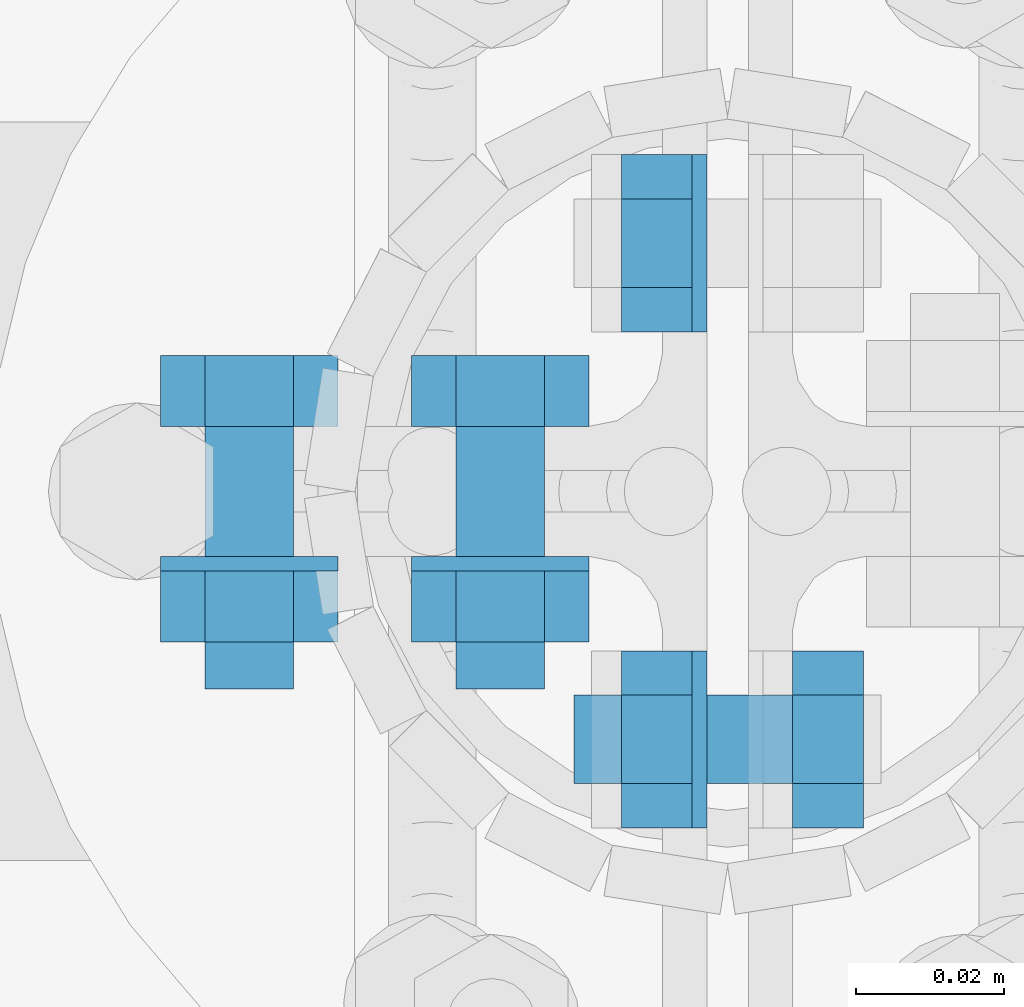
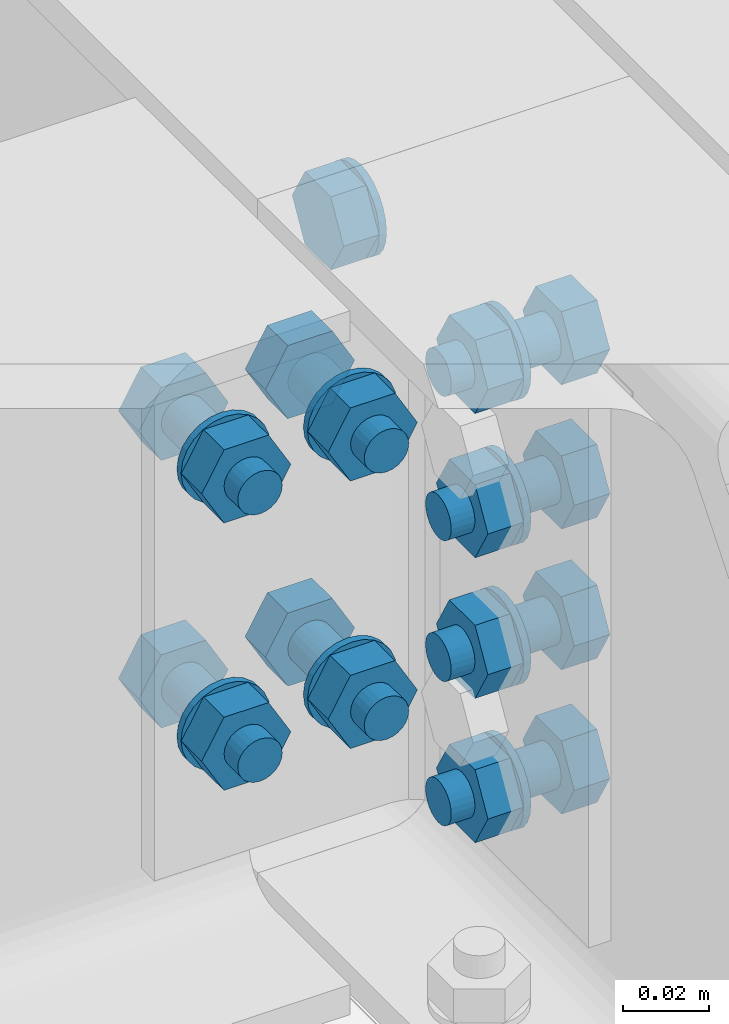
# One storey, part 56 of 84: 39 mechanical fasteners.
"""IFC4 building model written with IfcOpenShell, lengths in metres."""

from ifc_helpers import new_model, si_unit, frame, origin_with_axes, place, context, project, spatial, polyline, outline, extrude, type_object, element, save


model = new_model("IFC4")

# Units and contexts
model_context = context("Model", 3, precision=1e-05, world=origin_with_axes())
ifc_project = project(units=[si_unit("LENGTHUNIT", "METRE"), si_unit("AREAUNIT", "SQUARE_METRE"), si_unit("VOLUMEUNIT", "CUBIC_METRE"), si_unit("MASSUNIT", "GRAM", prefix="KILO"), si_unit("TIMEUNIT", "SECOND"), si_unit("PLANEANGLEUNIT", "RADIAN"), si_unit("SOLIDANGLEUNIT", "STERADIAN"), si_unit("THERMODYNAMICTEMPERATUREUNIT", "DEGREE_CELSIUS")], contexts=[model_context])

# Site, building, storey
placement_1 = place(None, origin_with_axes())
site = spatial("IfcSite", under=ifc_project, at=placement_1, Name="Italia", CompositionType="ELEMENT")
building = spatial("IfcBuilding", under=site, at=placement_1, Name="Tettoia", CompositionType="ELEMENT")
storey_placement = place(None, frame((0.0, 0.0, 4.199999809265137), z_axis=(0.0, 0.0, 1.0), x_axis=(1.0, 0.0, 0.0)))
storey = spatial("IfcBuildingStorey", under=building, at=storey_placement, Name="Storey 1", CompositionType="ELEMENT", Elevation=4.199999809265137)

# Mechanical fasteners
mechanical_fastener_type_1 = type_object("IfcMechanicalFastenerType", Name="Collegamento 0112_-016", PredefinedType="BOLT")
placement_2 = place(placement_1, origin_with_axes())
mechanical_fastener_1_placement = place(placement_2, origin_with_axes())
element("IfcMechanicalFastener", 1, at=mechanical_fastener_1_placement, inside=storey, type_object=mechanical_fastener_type_1, Name="Collegamento 0112_-016", NominalDiameter=0.0119997, context=model_context, shape_type="SweptSolid", body=[
    extrude(outline(polyline([(0.0, 0.0), (-0.0120001, 0.0), (-0.0180006, 0.0103922), (-0.0120001, 0.0207849), (0.0, 0.0207849), (0.00599957, 0.0103922), (0.0, 0.0)])), frame((4.0556, 13.9896, 4.35061), z_axis=(1.0, 0.0, 0.0), x_axis=(0.0, 1.0, 0.0)), (0.0, 0.0, 1.0), 0.00960016),
])
mechanical_fastener_type_2 = type_object("IfcMechanicalFastenerType", Name="Collegamento 0112_-016", PredefinedType="BOLT")
mechanical_fastener_2_placement = place(placement_2, origin_with_axes())
element("IfcMechanicalFastener", 2, at=mechanical_fastener_2_placement, inside=storey, type_object=mechanical_fastener_type_2, Name="Collegamento 0112_-016", NominalDiameter=0.024, context=model_context, shape_type="SweptSolid", body=[
    extrude(outline(polyline([(0.0, 0.0), (-0.000409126, -0.00310564), (-0.00160789, -0.00600004), (-0.00351524, -0.00848532), (-0.00600052, -0.0103922), (-0.00889397, -0.011591), (-0.0120001, -0.0120001), (-0.0151062, -0.011591), (-0.0179996, -0.0103922), (-0.0204849, -0.00848532), (-0.0223923, -0.00600004), (-0.023591, -0.00310564), (-0.0240002, 0.0), (-0.023591, 0.00310564), (-0.0223923, 0.00600004), (-0.0204849, 0.00848532), (-0.0179996, 0.0103922), (-0.0151062, 0.011591), (-0.0120001, 0.0120001), (-0.00889397, 0.011591), (-0.00600052, 0.0103922), (-0.00351524, 0.00848532), (-0.00160789, 0.00600004), (-0.000409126, 0.00310564), (0.0, 0.0)])), frame((4.0652, 13.9956, 4.361), z_axis=(1.0, 0.0, 0.0), x_axis=(0.0, 1.0, 0.0)), (0.0, 0.0, 1.0), 0.00199986),
])
mechanical_fastener_type_3 = type_object("IfcMechanicalFastenerType", Name="Collegamento 0112_-016", PredefinedType="BOLT")
mechanical_fastener_3_placement = place(placement_2, origin_with_axes())
element("IfcMechanicalFastener", 3, at=mechanical_fastener_3_placement, inside=storey, type_object=mechanical_fastener_type_3, Name="Collegamento 0112_-016", NominalDiameter=0.0119997, context=model_context, shape_type="SweptSolid", body=[
    extrude(outline(polyline([(0.0, 0.0), (-0.0120001, 0.0), (-0.0180006, 0.0103927), (-0.0120001, 0.0207849), (0.0, 0.0207849), (0.00599957, 0.0103927), (0.0, 0.0)])), frame((4.0884, 13.9104, 4.22861), z_axis=(-1.0, 0.0, 0.0), x_axis=(0.0, -1.0, 0.0)), (0.0, 0.0, 1.0), 0.00960016),
])
mechanical_fastener_type_4 = type_object("IfcMechanicalFastenerType", Name="Collegamento 0112_-016", PredefinedType="BOLT")
mechanical_fastener_4_placement = place(placement_2, origin_with_axes())
element("IfcMechanicalFastener", 4, at=mechanical_fastener_4_placement, inside=storey, type_object=mechanical_fastener_type_4, Name="Collegamento 0112_-016", NominalDiameter=0.012, context=model_context, shape_type="SweptSolid", body=[
    extrude(outline(polyline([(0.0, 0.0), (-0.000204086, -0.00155306), (-0.000802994, -0.00299978), (-0.00175667, -0.00424242), (-0.00299931, -0.00519609), (-0.00444698, -0.00579548), (-0.00599957, -0.00600004), (-0.00755215, -0.00579548), (-0.00899982, -0.00519609), (-0.0102425, -0.00424242), (-0.0111961, -0.00299978), (-0.011795, -0.00155306), (-0.0119991, 0.0), (-0.011795, 0.00155306), (-0.0111961, 0.00299978), (-0.0102425, 0.00424242), (-0.00899982, 0.00519609), (-0.00755215, 0.00579548), (-0.00599957, 0.00600004), (-0.00444698, 0.00579548), (-0.00299931, 0.00519609), (-0.00175667, 0.00424242), (-0.000802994, 0.00299978), (-0.000204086, 0.00155306), (0.0, 0.0)])), frame((4.0788, 13.9104, 4.239), z_axis=(-1.0, 0.0, 0.0), x_axis=(0.0, -1.0, 0.0)), (0.0, 0.0, 1.0), 0.0296001),
])
mechanical_fastener_type_5 = type_object("IfcMechanicalFastenerType", Name="Collegamento 0112_-016", PredefinedType="BOLT")
mechanical_fastener_5_placement = place(placement_2, origin_with_axes())
element("IfcMechanicalFastener", 5, at=mechanical_fastener_5_placement, inside=storey, type_object=mechanical_fastener_type_5, Name="Collegamento 0112_-016", NominalDiameter=0.0119997, context=model_context, shape_type="SweptSolid", body=[
    extrude(outline(polyline([(0.0, 0.0), (-0.0120001, 0.0), (-0.0180006, 0.0103927), (-0.0120001, 0.0207849), (0.0, 0.0207849), (0.00599957, 0.0103927), (0.0, 0.0)])), frame((4.0652, 13.9104, 4.22861), z_axis=(-1.0, 0.0, 0.0), x_axis=(0.0, -1.0, 0.0)), (0.0, 0.0, 1.0), 0.00960016),
])
mechanical_fastener_type_6 = type_object("IfcMechanicalFastenerType", Name="Collegamento 0112_-016", PredefinedType="BOLT")
mechanical_fastener_6_placement = place(placement_2, origin_with_axes())
element("IfcMechanicalFastener", 6, at=mechanical_fastener_6_placement, inside=storey, type_object=mechanical_fastener_type_6, Name="Collegamento 0112_-016", NominalDiameter=0.024, context=model_context, shape_type="SweptSolid", body=[
    extrude(outline(polyline([(0.0, 0.0), (-0.000409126, -0.00310564), (-0.00160789, -0.00600004), (-0.00351524, -0.00848532), (-0.00600052, -0.0103922), (-0.00889397, -0.011591), (-0.0120001, -0.0120001), (-0.0151062, -0.011591), (-0.0179996, -0.0103922), (-0.0204849, -0.00848532), (-0.0223923, -0.00600004), (-0.023591, -0.00310564), (-0.0240002, 0.0), (-0.023591, 0.00310564), (-0.0223923, 0.00600004), (-0.0204849, 0.00848532), (-0.0179996, 0.0103922), (-0.0151062, 0.011591), (-0.0120001, 0.0120001), (-0.00889397, 0.011591), (-0.00600052, 0.0103922), (-0.00351524, 0.00848532), (-0.00160789, 0.00600004), (-0.000409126, 0.00310564), (0.0, 0.0)])), frame((4.0672, 13.9044, 4.239), z_axis=(-1.0, 0.0, 0.0), x_axis=(0.0, -1.0, 0.0)), (0.0, 0.0, 1.0), 0.00199986),
])
mechanical_fastener_type_7 = type_object("IfcMechanicalFastenerType", Name="Collegamento 0112_-016", PredefinedType="BOLT")
mechanical_fastener_7_placement = place(placement_2, origin_with_axes())
element("IfcMechanicalFastener", 7, at=mechanical_fastener_7_placement, inside=storey, type_object=mechanical_fastener_type_7, Name="Collegamento 0112_-016", NominalDiameter=0.0119997, context=model_context, shape_type="SweptSolid", body=[
    extrude(outline(polyline([(0.0, 0.0), (-0.0120001, 0.0), (-0.0180006, 0.0103922), (-0.0120001, 0.0207844), (0.0, 0.0207844), (0.00599957, 0.0103922), (0.0, 0.0)])), frame((4.0884, 13.9104, 4.26961), z_axis=(-1.0, 0.0, 0.0), x_axis=(0.0, -1.0, 0.0)), (0.0, 0.0, 1.0), 0.00960016),
])
mechanical_fastener_type_8 = type_object("IfcMechanicalFastenerType", Name="Collegamento 0112_-016", PredefinedType="BOLT")
mechanical_fastener_8_placement = place(placement_2, origin_with_axes())
element("IfcMechanicalFastener", 8, at=mechanical_fastener_8_placement, inside=storey, type_object=mechanical_fastener_type_8, Name="Collegamento 0112_-016", NominalDiameter=0.012, context=model_context, shape_type="SweptSolid", body=[
    extrude(outline(polyline([(0.0, 0.0), (-0.000204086, -0.00155306), (-0.000802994, -0.00299978), (-0.00175667, -0.00424242), (-0.00299931, -0.00519609), (-0.00444698, -0.00579548), (-0.00599957, -0.00600004), (-0.00755215, -0.00579548), (-0.00899982, -0.00519609), (-0.0102425, -0.00424242), (-0.0111961, -0.00299978), (-0.011795, -0.00155306), (-0.0119991, 0.0), (-0.011795, 0.00155306), (-0.0111961, 0.00299978), (-0.0102425, 0.00424242), (-0.00899982, 0.00519609), (-0.00755215, 0.00579548), (-0.00599957, 0.00600004), (-0.00444698, 0.00579548), (-0.00299931, 0.00519609), (-0.00175667, 0.00424242), (-0.000802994, 0.00299978), (-0.000204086, 0.00155306), (0.0, 0.0)])), frame((4.0788, 13.9104, 4.28), z_axis=(-1.0, 0.0, 0.0), x_axis=(0.0, -1.0, 0.0)), (0.0, 0.0, 1.0), 0.0296001),
])
mechanical_fastener_type_9 = type_object("IfcMechanicalFastenerType", Name="Collegamento 0112_-016", PredefinedType="BOLT")
mechanical_fastener_9_placement = place(placement_2, origin_with_axes())
element("IfcMechanicalFastener", 9, at=mechanical_fastener_9_placement, inside=storey, type_object=mechanical_fastener_type_9, Name="Collegamento 0112_-016", NominalDiameter=0.0119997, context=model_context, shape_type="SweptSolid", body=[
    extrude(outline(polyline([(0.0, 0.0), (-0.0120001, 0.0), (-0.0180006, 0.0103922), (-0.0120001, 0.0207844), (0.0, 0.0207844), (0.00599957, 0.0103922), (0.0, 0.0)])), frame((4.0652, 13.9104, 4.26961), z_axis=(-1.0, 0.0, 0.0), x_axis=(0.0, -1.0, 0.0)), (0.0, 0.0, 1.0), 0.00960016),
])
mechanical_fastener_type_10 = type_object("IfcMechanicalFastenerType", Name="Collegamento 0112_-016", PredefinedType="BOLT")
mechanical_fastener_10_placement = place(placement_2, origin_with_axes())
element("IfcMechanicalFastener", 10, at=mechanical_fastener_10_placement, inside=storey, type_object=mechanical_fastener_type_10, Name="Collegamento 0112_-016", NominalDiameter=0.024, context=model_context, shape_type="SweptSolid", body=[
    extrude(outline(polyline([(0.0, 0.0), (-0.000409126, -0.00310564), (-0.00160789, -0.00600004), (-0.00351524, -0.00848532), (-0.00600052, -0.0103922), (-0.00889397, -0.011591), (-0.0120001, -0.0120001), (-0.0151062, -0.011591), (-0.0179996, -0.0103922), (-0.0204849, -0.00848532), (-0.0223923, -0.00600004), (-0.023591, -0.00310564), (-0.0240002, 0.0), (-0.023591, 0.00310564), (-0.0223923, 0.00600004), (-0.0204849, 0.00848532), (-0.0179996, 0.0103922), (-0.0151062, 0.011591), (-0.0120001, 0.0120001), (-0.00889397, 0.011591), (-0.00600052, 0.0103922), (-0.00351524, 0.00848532), (-0.00160789, 0.00600004), (-0.000409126, 0.00310564), (0.0, 0.0)])), frame((4.0672, 13.9044, 4.28), z_axis=(-1.0, 0.0, 0.0), x_axis=(0.0, -1.0, 0.0)), (0.0, 0.0, 1.0), 0.00199986),
])
mechanical_fastener_type_11 = type_object("IfcMechanicalFastenerType", Name="Collegamento 0112_-016", PredefinedType="BOLT")
mechanical_fastener_11_placement = place(placement_2, origin_with_axes())
element("IfcMechanicalFastener", 11, at=mechanical_fastener_11_placement, inside=storey, type_object=mechanical_fastener_type_11, Name="Collegamento 0112_-016", NominalDiameter=0.0119997, context=model_context, shape_type="SweptSolid", body=[
    extrude(outline(polyline([(0.0, 0.0), (-0.0120001, 0.0), (-0.0180006, 0.0103922), (-0.0120001, 0.0207844), (0.0, 0.0207844), (0.00599957, 0.0103922), (0.0, 0.0)])), frame((4.0884, 13.9104, 4.30961), z_axis=(-1.0, 0.0, 0.0), x_axis=(0.0, -1.0, 0.0)), (0.0, 0.0, 1.0), 0.00960016),
])
mechanical_fastener_type_12 = type_object("IfcMechanicalFastenerType", Name="Collegamento 0112_-016", PredefinedType="BOLT")
mechanical_fastener_12_placement = place(placement_2, origin_with_axes())
element("IfcMechanicalFastener", 12, at=mechanical_fastener_12_placement, inside=storey, type_object=mechanical_fastener_type_12, Name="Collegamento 0112_-016", NominalDiameter=0.012, context=model_context, shape_type="SweptSolid", body=[
    extrude(outline(polyline([(0.0, 0.0), (-0.000204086, -0.00155306), (-0.000802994, -0.00299978), (-0.00175667, -0.00424242), (-0.00299931, -0.00519609), (-0.00444698, -0.00579548), (-0.00599957, -0.00600004), (-0.00755215, -0.00579548), (-0.00899982, -0.00519609), (-0.0102425, -0.00424242), (-0.0111961, -0.00299978), (-0.011795, -0.00155306), (-0.0119991, 0.0), (-0.011795, 0.00155306), (-0.0111961, 0.00299978), (-0.0102425, 0.00424242), (-0.00899982, 0.00519609), (-0.00755215, 0.00579548), (-0.00599957, 0.00600004), (-0.00444698, 0.00579548), (-0.00299931, 0.00519609), (-0.00175667, 0.00424242), (-0.000802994, 0.00299978), (-0.000204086, 0.00155306), (0.0, 0.0)])), frame((4.0788, 13.9104, 4.32), z_axis=(-1.0, 0.0, 0.0), x_axis=(0.0, -1.0, 0.0)), (0.0, 0.0, 1.0), 0.0296001),
])
mechanical_fastener_type_13 = type_object("IfcMechanicalFastenerType", Name="Collegamento 0112_-016", PredefinedType="BOLT")
mechanical_fastener_13_placement = place(placement_2, origin_with_axes())
element("IfcMechanicalFastener", 13, at=mechanical_fastener_13_placement, inside=storey, type_object=mechanical_fastener_type_13, Name="Collegamento 0112_-016", NominalDiameter=0.0119997, context=model_context, shape_type="SweptSolid", body=[
    extrude(outline(polyline([(0.0, 0.0), (-0.0120001, 0.0), (-0.0180006, 0.0103922), (-0.0120001, 0.0207844), (0.0, 0.0207844), (0.00599957, 0.0103922), (0.0, 0.0)])), frame((4.0652, 13.9104, 4.30961), z_axis=(-1.0, 0.0, 0.0), x_axis=(0.0, -1.0, 0.0)), (0.0, 0.0, 1.0), 0.00960016),
])
mechanical_fastener_type_14 = type_object("IfcMechanicalFastenerType", Name="Collegamento 0112_-016", PredefinedType="BOLT")
mechanical_fastener_14_placement = place(placement_2, origin_with_axes())
element("IfcMechanicalFastener", 14, at=mechanical_fastener_14_placement, inside=storey, type_object=mechanical_fastener_type_14, Name="Collegamento 0112_-016", NominalDiameter=0.024, context=model_context, shape_type="SweptSolid", body=[
    extrude(outline(polyline([(0.0, 0.0), (-0.000409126, -0.00310564), (-0.00160789, -0.00600004), (-0.00351524, -0.00848532), (-0.00600052, -0.0103922), (-0.00889397, -0.011591), (-0.0120001, -0.0120001), (-0.0151062, -0.011591), (-0.0179996, -0.0103922), (-0.0204849, -0.00848532), (-0.0223923, -0.00600004), (-0.023591, -0.00310564), (-0.0240002, 0.0), (-0.023591, 0.00310564), (-0.0223923, 0.00600004), (-0.0204849, 0.00848532), (-0.0179996, 0.0103922), (-0.0151062, 0.011591), (-0.0120001, 0.0120001), (-0.00889397, 0.011591), (-0.00600052, 0.0103922), (-0.00351524, 0.00848532), (-0.00160789, 0.00600004), (-0.000409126, 0.00310564), (0.0, 0.0)])), frame((4.0672, 13.9044, 4.32), z_axis=(-1.0, 0.0, 0.0), x_axis=(0.0, -1.0, 0.0)), (0.0, 0.0, 1.0), 0.00199986),
])
mechanical_fastener_type_15 = type_object("IfcMechanicalFastenerType", Name="Collegamento 0112_-016", PredefinedType="BOLT")
mechanical_fastener_15_placement = place(placement_2, origin_with_axes())
element("IfcMechanicalFastener", 15, at=mechanical_fastener_15_placement, inside=storey, type_object=mechanical_fastener_type_15, Name="Collegamento 0112_-016", NominalDiameter=0.0119997, context=model_context, shape_type="SweptSolid", body=[
    extrude(outline(polyline([(0.0, 0.0), (-0.0120001, 0.0), (-0.0180006, 0.0103922), (-0.0120001, 0.0207849), (0.0, 0.0207849), (0.00599957, 0.0103922), (0.0, 0.0)])), frame((4.0884, 13.9104, 4.35061), z_axis=(-1.0, 0.0, 0.0), x_axis=(0.0, -1.0, 0.0)), (0.0, 0.0, 1.0), 0.00960016),
])
mechanical_fastener_type_16 = type_object("IfcMechanicalFastenerType", Name="Collegamento 0112_-016", PredefinedType="BOLT")
mechanical_fastener_16_placement = place(placement_2, origin_with_axes())
element("IfcMechanicalFastener", 16, at=mechanical_fastener_16_placement, inside=storey, type_object=mechanical_fastener_type_16, Name="Collegamento 0112_-016", NominalDiameter=0.012, context=model_context, shape_type="SweptSolid", body=[
    extrude(outline(polyline([(0.0, 0.0), (-0.000204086, -0.00155306), (-0.000802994, -0.00299978), (-0.00175667, -0.00424242), (-0.00299931, -0.00519609), (-0.00444698, -0.00579548), (-0.00599957, -0.00600004), (-0.00755215, -0.00579548), (-0.00899982, -0.00519609), (-0.0102425, -0.00424242), (-0.0111961, -0.00299978), (-0.011795, -0.00155306), (-0.0119991, 0.0), (-0.011795, 0.00155306), (-0.0111961, 0.00299978), (-0.0102425, 0.00424242), (-0.00899982, 0.00519609), (-0.00755215, 0.00579548), (-0.00599957, 0.00600004), (-0.00444698, 0.00579548), (-0.00299931, 0.00519609), (-0.00175667, 0.00424242), (-0.000802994, 0.00299978), (-0.000204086, 0.00155306), (0.0, 0.0)])), frame((4.0788, 13.9104, 4.361), z_axis=(-1.0, 0.0, 0.0), x_axis=(0.0, -1.0, 0.0)), (0.0, 0.0, 1.0), 0.0296001),
])
mechanical_fastener_type_17 = type_object("IfcMechanicalFastenerType", Name="Collegamento 0112_-016", PredefinedType="BOLT")
mechanical_fastener_17_placement = place(placement_2, origin_with_axes())
element("IfcMechanicalFastener", 17, at=mechanical_fastener_17_placement, inside=storey, type_object=mechanical_fastener_type_17, Name="Collegamento 0112_-016", NominalDiameter=0.0119997, context=model_context, shape_type="SweptSolid", body=[
    extrude(outline(polyline([(0.0, 0.0), (-0.0120001, 0.0), (-0.0180006, 0.0103922), (-0.0120001, 0.0207849), (0.0, 0.0207849), (0.00599957, 0.0103922), (0.0, 0.0)])), frame((4.0652, 13.9104, 4.35061), z_axis=(-1.0, 0.0, 0.0), x_axis=(0.0, -1.0, 0.0)), (0.0, 0.0, 1.0), 0.00960016),
])
mechanical_fastener_type_18 = type_object("IfcMechanicalFastenerType", Name="Collegamento 0112_-016", PredefinedType="BOLT")
mechanical_fastener_18_placement = place(placement_2, origin_with_axes())
element("IfcMechanicalFastener", 18, at=mechanical_fastener_18_placement, inside=storey, type_object=mechanical_fastener_type_18, Name="Collegamento 0112_-016", NominalDiameter=0.024, context=model_context, shape_type="SweptSolid", body=[
    extrude(outline(polyline([(0.0, 0.0), (-0.000409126, -0.00310564), (-0.00160789, -0.00600004), (-0.00351524, -0.00848532), (-0.00600052, -0.0103922), (-0.00889397, -0.011591), (-0.0120001, -0.0120001), (-0.0151062, -0.011591), (-0.0179996, -0.0103922), (-0.0204849, -0.00848532), (-0.0223923, -0.00600004), (-0.023591, -0.00310564), (-0.0240002, 0.0), (-0.023591, 0.00310564), (-0.0223923, 0.00600004), (-0.0204849, 0.00848532), (-0.0179996, 0.0103922), (-0.0151062, 0.011591), (-0.0120001, 0.0120001), (-0.00889397, 0.011591), (-0.00600052, 0.0103922), (-0.00351524, 0.00848532), (-0.00160789, 0.00600004), (-0.000409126, 0.00310564), (0.0, 0.0)])), frame((4.0672, 13.9044, 4.361), z_axis=(-1.0, 0.0, 0.0), x_axis=(0.0, -1.0, 0.0)), (0.0, 0.0, 1.0), 0.00199986),
])
mechanical_fastener_type_19 = type_object("IfcMechanicalFastenerType", Name="Collegamento 0112_0111", PredefinedType="BOLT")
mechanical_fastener_19_placement = place(placement_2, origin_with_axes())
element("IfcMechanicalFastener", 19, at=mechanical_fastener_19_placement, inside=storey, type_object=mechanical_fastener_type_19, Name="Collegamento 0112_0111", NominalDiameter=0.0119999, context=model_context, shape_type="SweptSolid", body=[
    extrude(outline(polyline([(0.0, 0.0), (-0.0120001, 0.0), (-0.0180001, 0.0103922), (-0.0120001, 0.0207844), (0.0, 0.0207844), (0.00600004, 0.0103922), (0.0, 0.0)])), frame((4.0332, 13.9588, 4.25161), z_axis=(0.0, 1.0, 0.0), x_axis=(-1.0, 0.0, 0.0)), (0.0, 0.0, 1.0), 0.00960064),
])
mechanical_fastener_type_20 = type_object("IfcMechanicalFastenerType", Name="Collegamento 0112_0111", PredefinedType="BOLT")
mechanical_fastener_20_placement = place(placement_2, origin_with_axes())
element("IfcMechanicalFastener", 20, at=mechanical_fastener_20_placement, inside=storey, type_object=mechanical_fastener_type_20, Name="Collegamento 0112_0111", NominalDiameter=0.012, context=model_context, shape_type="SweptSolid", body=[
    extrude(outline(polyline([(0.0, 0.0), (-0.000204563, -0.00155306), (-0.000803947, -0.00299978), (-0.00175762, -0.00424242), (-0.00300026, -0.00519609), (-0.00444698, -0.00579548), (-0.00600004, -0.00600004), (-0.0075531, -0.00579548), (-0.00899982, -0.00519609), (-0.0102425, -0.00424242), (-0.0111961, -0.00299978), (-0.0117955, -0.00155306), (-0.0120001, 0.0), (-0.0117955, 0.00155306), (-0.0111961, 0.00299978), (-0.0102425, 0.00424242), (-0.00899982, 0.00519609), (-0.0075531, 0.00579548), (-0.00600004, 0.00600004), (-0.00444698, 0.00579548), (-0.00300026, 0.00519609), (-0.00175762, 0.00424242), (-0.000803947, 0.00299978), (-0.000204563, 0.00155306), (0.0, 0.0)])), frame((4.0332, 13.9232, 4.262), z_axis=(0.0, 1.0, 0.0), x_axis=(-1.0, 0.0, 0.0)), (0.0, 0.0, 1.0), 0.0355997),
])
mechanical_fastener_type_21 = type_object("IfcMechanicalFastenerType", Name="Collegamento 0112_0111", PredefinedType="BOLT")
mechanical_fastener_21_placement = place(placement_2, origin_with_axes())
element("IfcMechanicalFastener", 21, at=mechanical_fastener_21_placement, inside=storey, type_object=mechanical_fastener_type_21, Name="Collegamento 0112_0111", NominalDiameter=0.0119999, context=model_context, shape_type="SweptSolid", body=[
    extrude(outline(polyline([(0.0, 0.0), (-0.0120001, 0.0), (-0.0180001, 0.0103922), (-0.0120001, 0.0207844), (0.0, 0.0207844), (0.00600004, 0.0103922), (0.0, 0.0)])), frame((4.0332, 13.9296, 4.25161), z_axis=(0.0, 1.0, 0.0), x_axis=(-1.0, 0.0, 0.0)), (0.0, 0.0, 1.0), 0.00959969),
])
mechanical_fastener_type_22 = type_object("IfcMechanicalFastenerType", Name="Collegamento 0112_0111", PredefinedType="BOLT")
mechanical_fastener_22_placement = place(placement_2, origin_with_axes())
element("IfcMechanicalFastener", 22, at=mechanical_fastener_22_placement, inside=storey, type_object=mechanical_fastener_type_22, Name="Collegamento 0112_0111", NominalDiameter=0.024, context=model_context, shape_type="SweptSolid", body=[
    extrude(outline(polyline([(0.0, 0.0), (-0.000409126, -0.00310564), (-0.00160789, -0.00600004), (-0.00351477, -0.00848532), (-0.00600004, -0.0103922), (-0.00889444, -0.011591), (-0.0120001, -0.0120001), (-0.0151057, -0.011591), (-0.0180001, -0.0103922), (-0.0204854, -0.00848532), (-0.0223923, -0.00600004), (-0.023591, -0.00310564), (-0.0240002, 0.0), (-0.023591, 0.00310564), (-0.0223923, 0.00600004), (-0.0204854, 0.00848532), (-0.0180001, 0.0103922), (-0.0151057, 0.011591), (-0.0120001, 0.0120001), (-0.00889444, 0.011591), (-0.00600004, 0.0103922), (-0.00351477, 0.00848532), (-0.00160789, 0.00600004), (-0.000409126, 0.00310564), (0.0, 0.0)])), frame((4.0272, 13.9392, 4.262), z_axis=(0.0, 1.0, 0.0), x_axis=(-1.0, 0.0, 0.0)), (0.0, 0.0, 1.0), 0.00200081),
])
mechanical_fastener_type_23 = type_object("IfcMechanicalFastenerType", Name="Collegamento 0112_0111", PredefinedType="BOLT")
mechanical_fastener_23_placement = place(placement_2, origin_with_axes())
element("IfcMechanicalFastener", 23, at=mechanical_fastener_23_placement, inside=storey, type_object=mechanical_fastener_type_23, Name="Collegamento 0112_0111", NominalDiameter=0.0119999, context=model_context, shape_type="SweptSolid", body=[
    extrude(outline(polyline([(0.0, 0.0), (-0.0120001, 0.0), (-0.0180001, 0.0103922), (-0.0120001, 0.0207844), (0.0, 0.0207844), (0.00600004, 0.0103922), (0.0, 0.0)])), frame((4.0332, 13.9588, 4.32761), z_axis=(0.0, 1.0, 0.0), x_axis=(-1.0, 0.0, 0.0)), (0.0, 0.0, 1.0), 0.00960064),
])
mechanical_fastener_type_24 = type_object("IfcMechanicalFastenerType", Name="Collegamento 0112_0111", PredefinedType="BOLT")
mechanical_fastener_24_placement = place(placement_2, origin_with_axes())
element("IfcMechanicalFastener", 24, at=mechanical_fastener_24_placement, inside=storey, type_object=mechanical_fastener_type_24, Name="Collegamento 0112_0111", NominalDiameter=0.012, context=model_context, shape_type="SweptSolid", body=[
    extrude(outline(polyline([(0.0, 0.0), (-0.000204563, -0.00155306), (-0.000803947, -0.00299978), (-0.00175762, -0.00424242), (-0.00300026, -0.00519609), (-0.00444698, -0.00579548), (-0.00600004, -0.00600004), (-0.0075531, -0.00579548), (-0.00899982, -0.00519609), (-0.0102425, -0.00424242), (-0.0111961, -0.00299978), (-0.0117955, -0.00155306), (-0.0120001, 0.0), (-0.0117955, 0.00155306), (-0.0111961, 0.00299978), (-0.0102425, 0.00424242), (-0.00899982, 0.00519609), (-0.0075531, 0.00579548), (-0.00600004, 0.00600004), (-0.00444698, 0.00579548), (-0.00300026, 0.00519609), (-0.00175762, 0.00424242), (-0.000803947, 0.00299978), (-0.000204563, 0.00155306), (0.0, 0.0)])), frame((4.0332, 13.9232, 4.338), z_axis=(0.0, 1.0, 0.0), x_axis=(-1.0, 0.0, 0.0)), (0.0, 0.0, 1.0), 0.0355997),
])
mechanical_fastener_type_25 = type_object("IfcMechanicalFastenerType", Name="Collegamento 0112_0111", PredefinedType="BOLT")
mechanical_fastener_25_placement = place(placement_2, origin_with_axes())
element("IfcMechanicalFastener", 25, at=mechanical_fastener_25_placement, inside=storey, type_object=mechanical_fastener_type_25, Name="Collegamento 0112_0111", NominalDiameter=0.0119999, context=model_context, shape_type="SweptSolid", body=[
    extrude(outline(polyline([(0.0, 0.0), (-0.0120001, 0.0), (-0.0180001, 0.0103922), (-0.0120001, 0.0207844), (0.0, 0.0207844), (0.00600004, 0.0103922), (0.0, 0.0)])), frame((4.0332, 13.9296, 4.32761), z_axis=(0.0, 1.0, 0.0), x_axis=(-1.0, 0.0, 0.0)), (0.0, 0.0, 1.0), 0.00959969),
])
mechanical_fastener_type_26 = type_object("IfcMechanicalFastenerType", Name="Collegamento 0112_0111", PredefinedType="BOLT")
mechanical_fastener_26_placement = place(placement_2, origin_with_axes())
element("IfcMechanicalFastener", 26, at=mechanical_fastener_26_placement, inside=storey, type_object=mechanical_fastener_type_26, Name="Collegamento 0112_0111", NominalDiameter=0.024, context=model_context, shape_type="SweptSolid", body=[
    extrude(outline(polyline([(0.0, 0.0), (-0.000409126, -0.00310564), (-0.00160789, -0.00600004), (-0.00351477, -0.00848532), (-0.00600004, -0.0103922), (-0.00889444, -0.011591), (-0.0120001, -0.0120001), (-0.0151057, -0.011591), (-0.0180001, -0.0103922), (-0.0204854, -0.00848532), (-0.0223923, -0.00600004), (-0.023591, -0.00310564), (-0.0240002, 0.0), (-0.023591, 0.00310564), (-0.0223923, 0.00600004), (-0.0204854, 0.00848532), (-0.0180001, 0.0103922), (-0.0151057, 0.011591), (-0.0120001, 0.0120001), (-0.00889444, 0.011591), (-0.00600004, 0.0103922), (-0.00351477, 0.00848532), (-0.00160789, 0.00600004), (-0.000409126, 0.00310564), (0.0, 0.0)])), frame((4.0272, 13.9392, 4.338), z_axis=(0.0, 1.0, 0.0), x_axis=(-1.0, 0.0, 0.0)), (0.0, 0.0, 1.0), 0.00200081),
])
mechanical_fastener_type_27 = type_object("IfcMechanicalFastenerType", Name="Collegamento 0112_0111", PredefinedType="BOLT")
mechanical_fastener_27_placement = place(placement_2, origin_with_axes())
element("IfcMechanicalFastener", 27, at=mechanical_fastener_27_placement, inside=storey, type_object=mechanical_fastener_type_27, Name="Collegamento 0112_0111", NominalDiameter=0.0119998, context=model_context, shape_type="SweptSolid", body=[
    extrude(outline(polyline([(0.0, 0.0), (-0.0119998, 0.0), (-0.0179999, 0.0103922), (-0.0119998, 0.0207844), (0.0, 0.0207844), (0.0059998, 0.0103922), (0.0, 0.0)])), frame((3.9992, 13.9588, 4.25161), z_axis=(0.0, 1.0, 0.0), x_axis=(-1.0, 0.0, 0.0)), (0.0, 0.0, 1.0), 0.00960064),
])
mechanical_fastener_type_28 = type_object("IfcMechanicalFastenerType", Name="Collegamento 0112_0111", PredefinedType="BOLT")
mechanical_fastener_28_placement = place(placement_2, origin_with_axes())
element("IfcMechanicalFastener", 28, at=mechanical_fastener_28_placement, inside=storey, type_object=mechanical_fastener_type_28, Name="Collegamento 0112_0111", NominalDiameter=0.012, context=model_context, shape_type="SweptSolid", body=[
    extrude(outline(polyline([(0.0, 0.0), (-0.000204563, -0.00155306), (-0.000803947, -0.00299978), (-0.00175762, -0.00424242), (-0.00300026, -0.00519609), (-0.00444698, -0.00579548), (-0.00600004, -0.00600004), (-0.0075531, -0.00579548), (-0.00899982, -0.00519609), (-0.0102425, -0.00424242), (-0.0111961, -0.00299978), (-0.0117955, -0.00155306), (-0.0120001, 0.0), (-0.0117955, 0.00155306), (-0.0111961, 0.00299978), (-0.0102425, 0.00424242), (-0.00899982, 0.00519609), (-0.0075531, 0.00579548), (-0.00600004, 0.00600004), (-0.00444698, 0.00579548), (-0.00300026, 0.00519609), (-0.00175762, 0.00424242), (-0.000803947, 0.00299978), (-0.000204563, 0.00155306), (0.0, 0.0)])), frame((3.9992, 13.9232, 4.262), z_axis=(0.0, 1.0, 0.0), x_axis=(-1.0, 0.0, 0.0)), (0.0, 0.0, 1.0), 0.0355997),
])
mechanical_fastener_type_29 = type_object("IfcMechanicalFastenerType", Name="Collegamento 0112_0111", PredefinedType="BOLT")
mechanical_fastener_29_placement = place(placement_2, origin_with_axes())
element("IfcMechanicalFastener", 29, at=mechanical_fastener_29_placement, inside=storey, type_object=mechanical_fastener_type_29, Name="Collegamento 0112_0111", NominalDiameter=0.0119998, context=model_context, shape_type="SweptSolid", body=[
    extrude(outline(polyline([(0.0, 0.0), (-0.0119998, 0.0), (-0.0179999, 0.0103922), (-0.0119998, 0.0207844), (0.0, 0.0207844), (0.0059998, 0.0103922), (0.0, 0.0)])), frame((3.9992, 13.9296, 4.25161), z_axis=(0.0, 1.0, 0.0), x_axis=(-1.0, 0.0, 0.0)), (0.0, 0.0, 1.0), 0.00959969),
])
mechanical_fastener_type_30 = type_object("IfcMechanicalFastenerType", Name="Collegamento 0112_0111", PredefinedType="BOLT")
mechanical_fastener_30_placement = place(placement_2, origin_with_axes())
element("IfcMechanicalFastener", 30, at=mechanical_fastener_30_placement, inside=storey, type_object=mechanical_fastener_type_30, Name="Collegamento 0112_0111", NominalDiameter=0.024, context=model_context, shape_type="SweptSolid", body=[
    extrude(outline(polyline([(0.0, 0.0), (-0.000408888, -0.00310564), (-0.00160789, -0.00600004), (-0.00351477, -0.00848532), (-0.00600004, -0.0103922), (-0.00889444, -0.011591), (-0.0120001, -0.0120001), (-0.0151057, -0.011591), (-0.0180001, -0.0103922), (-0.0204854, -0.00848532), (-0.0223923, -0.00600004), (-0.023591, -0.00310564), (-0.0240002, 0.0), (-0.023591, 0.00310564), (-0.0223923, 0.00600004), (-0.0204854, 0.00848532), (-0.0180001, 0.0103922), (-0.0151057, 0.011591), (-0.0120001, 0.0120001), (-0.00889444, 0.011591), (-0.00600004, 0.0103922), (-0.00351477, 0.00848532), (-0.00160789, 0.00600004), (-0.000408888, 0.00310564), (0.0, 0.0)])), frame((3.9932, 13.9392, 4.262), z_axis=(0.0, 1.0, 0.0), x_axis=(-1.0, 0.0, 0.0)), (0.0, 0.0, 1.0), 0.00200081),
])
mechanical_fastener_type_31 = type_object("IfcMechanicalFastenerType", Name="Collegamento 0112_0111", PredefinedType="BOLT")
mechanical_fastener_31_placement = place(placement_2, origin_with_axes())
element("IfcMechanicalFastener", 31, at=mechanical_fastener_31_placement, inside=storey, type_object=mechanical_fastener_type_31, Name="Collegamento 0112_0111", NominalDiameter=0.0119998, context=model_context, shape_type="SweptSolid", body=[
    extrude(outline(polyline([(0.0, 0.0), (-0.0119998, 0.0), (-0.0179999, 0.0103922), (-0.0119998, 0.0207844), (0.0, 0.0207844), (0.0059998, 0.0103922), (0.0, 0.0)])), frame((3.9992, 13.9588, 4.32761), z_axis=(0.0, 1.0, 0.0), x_axis=(-1.0, 0.0, 0.0)), (0.0, 0.0, 1.0), 0.00960064),
])
mechanical_fastener_type_32 = type_object("IfcMechanicalFastenerType", Name="Collegamento 0112_0111", PredefinedType="BOLT")
mechanical_fastener_32_placement = place(placement_2, origin_with_axes())
element("IfcMechanicalFastener", 32, at=mechanical_fastener_32_placement, inside=storey, type_object=mechanical_fastener_type_32, Name="Collegamento 0112_0111", NominalDiameter=0.012, context=model_context, shape_type="SweptSolid", body=[
    extrude(outline(polyline([(0.0, 0.0), (-0.000204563, -0.00155306), (-0.000803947, -0.00299978), (-0.00175762, -0.00424242), (-0.00300026, -0.00519609), (-0.00444698, -0.00579548), (-0.00600004, -0.00600004), (-0.0075531, -0.00579548), (-0.00899982, -0.00519609), (-0.0102425, -0.00424242), (-0.0111961, -0.00299978), (-0.0117955, -0.00155306), (-0.0120001, 0.0), (-0.0117955, 0.00155306), (-0.0111961, 0.00299978), (-0.0102425, 0.00424242), (-0.00899982, 0.00519609), (-0.0075531, 0.00579548), (-0.00600004, 0.00600004), (-0.00444698, 0.00579548), (-0.00300026, 0.00519609), (-0.00175762, 0.00424242), (-0.000803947, 0.00299978), (-0.000204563, 0.00155306), (0.0, 0.0)])), frame((3.9992, 13.9232, 4.338), z_axis=(0.0, 1.0, 0.0), x_axis=(-1.0, 0.0, 0.0)), (0.0, 0.0, 1.0), 0.0355997),
])
mechanical_fastener_type_33 = type_object("IfcMechanicalFastenerType", Name="Collegamento 0112_0111", PredefinedType="BOLT")
mechanical_fastener_33_placement = place(placement_2, origin_with_axes())
element("IfcMechanicalFastener", 33, at=mechanical_fastener_33_placement, inside=storey, type_object=mechanical_fastener_type_33, Name="Collegamento 0112_0111", NominalDiameter=0.0119998, context=model_context, shape_type="SweptSolid", body=[
    extrude(outline(polyline([(0.0, 0.0), (-0.0119998, 0.0), (-0.0179999, 0.0103922), (-0.0119998, 0.0207844), (0.0, 0.0207844), (0.0059998, 0.0103922), (0.0, 0.0)])), frame((3.9992, 13.9296, 4.32761), z_axis=(0.0, 1.0, 0.0), x_axis=(-1.0, 0.0, 0.0)), (0.0, 0.0, 1.0), 0.00959969),
])
mechanical_fastener_type_34 = type_object("IfcMechanicalFastenerType", Name="Collegamento 0112_0111", PredefinedType="BOLT")
mechanical_fastener_34_placement = place(placement_2, origin_with_axes())
element("IfcMechanicalFastener", 34, at=mechanical_fastener_34_placement, inside=storey, type_object=mechanical_fastener_type_34, Name="Collegamento 0112_0111", NominalDiameter=0.024, context=model_context, shape_type="SweptSolid", body=[
    extrude(outline(polyline([(0.0, 0.0), (-0.000408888, -0.00310564), (-0.00160789, -0.00600004), (-0.00351477, -0.00848532), (-0.00600004, -0.0103922), (-0.00889444, -0.011591), (-0.0120001, -0.0120001), (-0.0151057, -0.011591), (-0.0180001, -0.0103922), (-0.0204854, -0.00848532), (-0.0223923, -0.00600004), (-0.023591, -0.00310564), (-0.0240002, 0.0), (-0.023591, 0.00310564), (-0.0223923, 0.00600004), (-0.0204854, 0.00848532), (-0.0180001, 0.0103922), (-0.0151057, 0.011591), (-0.0120001, 0.0120001), (-0.00889444, 0.011591), (-0.00600004, 0.0103922), (-0.00351477, 0.00848532), (-0.00160789, 0.00600004), (-0.000408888, 0.00310564), (0.0, 0.0)])), frame((3.9932, 13.9392, 4.338), z_axis=(0.0, 1.0, 0.0), x_axis=(-1.0, 0.0, 0.0)), (0.0, 0.0, 1.0), 0.00200081),
])
mechanical_fastener_type_35 = type_object("IfcMechanicalFastenerType", Name="Collegamento 0112_0111", PredefinedType="BOLT")
mechanical_fastener_35_placement = place(placement_2, origin_with_axes())
element("IfcMechanicalFastener", 35, at=mechanical_fastener_35_placement, inside=storey, type_object=mechanical_fastener_type_35, Name="Collegamento 0112_0111", NominalDiameter=0.0119999, context=model_context, shape_type="SweptSolid", body=[
    extrude(outline(polyline([(0.0, 0.0), (-0.0120001, 0.0), (-0.0180001, 0.0103922), (-0.0120001, 0.0207844), (0.0, 0.0207844), (0.00600004, 0.0103922), (0.0, 0.0)])), frame((4.0332, 13.9588, 4.25161), z_axis=(0.0, 1.0, 0.0), x_axis=(-1.0, 0.0, 0.0)), (0.0, 0.0, 1.0), 0.00960064),
])
mechanical_fastener_type_36 = type_object("IfcMechanicalFastenerType", Name="Collegamento 0112_0111", PredefinedType="BOLT")
mechanical_fastener_36_placement = place(placement_2, origin_with_axes())
element("IfcMechanicalFastener", 36, at=mechanical_fastener_36_placement, inside=storey, type_object=mechanical_fastener_type_36, Name="Collegamento 0112_0111", NominalDiameter=0.012, context=model_context, shape_type="SweptSolid", body=[
    extrude(outline(polyline([(0.0, 0.0), (-0.000204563, -0.00155306), (-0.000803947, -0.00299978), (-0.00175762, -0.00424242), (-0.00300026, -0.00519609), (-0.00444698, -0.00579548), (-0.00600004, -0.00600004), (-0.0075531, -0.00579548), (-0.00899982, -0.00519609), (-0.0102425, -0.00424242), (-0.0111961, -0.00299978), (-0.0117955, -0.00155306), (-0.0120001, 0.0), (-0.0117955, 0.00155306), (-0.0111961, 0.00299978), (-0.0102425, 0.00424242), (-0.00899982, 0.00519609), (-0.0075531, 0.00579548), (-0.00600004, 0.00600004), (-0.00444698, 0.00579548), (-0.00300026, 0.00519609), (-0.00175762, 0.00424242), (-0.000803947, 0.00299978), (-0.000204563, 0.00155306), (0.0, 0.0)])), frame((4.0332, 13.9232, 4.262), z_axis=(0.0, 1.0, 0.0), x_axis=(-1.0, 0.0, 0.0)), (0.0, 0.0, 1.0), 0.0355997),
])
mechanical_fastener_type_37 = type_object("IfcMechanicalFastenerType", Name="Collegamento 0112_0111", PredefinedType="BOLT")
mechanical_fastener_37_placement = place(placement_2, origin_with_axes())
element("IfcMechanicalFastener", 37, at=mechanical_fastener_37_placement, inside=storey, type_object=mechanical_fastener_type_37, Name="Collegamento 0112_0111", NominalDiameter=0.0119999, context=model_context, shape_type="SweptSolid", body=[
    extrude(outline(polyline([(0.0, 0.0), (-0.0120001, 0.0), (-0.0180001, 0.0103922), (-0.0120001, 0.0207844), (0.0, 0.0207844), (0.00600004, 0.0103922), (0.0, 0.0)])), frame((4.0332, 13.9296, 4.25161), z_axis=(0.0, 1.0, 0.0), x_axis=(-1.0, 0.0, 0.0)), (0.0, 0.0, 1.0), 0.00959969),
])
mechanical_fastener_type_38 = type_object("IfcMechanicalFastenerType", Name="Collegamento 0112_0111", PredefinedType="BOLT")
mechanical_fastener_38_placement = place(placement_2, origin_with_axes())
element("IfcMechanicalFastener", 38, at=mechanical_fastener_38_placement, inside=storey, type_object=mechanical_fastener_type_38, Name="Collegamento 0112_0111", NominalDiameter=0.024, context=model_context, shape_type="SweptSolid", body=[
    extrude(outline(polyline([(0.0, 0.0), (-0.000409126, -0.00310564), (-0.00160789, -0.00600004), (-0.00351477, -0.00848532), (-0.00600004, -0.0103922), (-0.00889444, -0.011591), (-0.0120001, -0.0120001), (-0.0151057, -0.011591), (-0.0180001, -0.0103922), (-0.0204854, -0.00848532), (-0.0223923, -0.00600004), (-0.023591, -0.00310564), (-0.0240002, 0.0), (-0.023591, 0.00310564), (-0.0223923, 0.00600004), (-0.0204854, 0.00848532), (-0.0180001, 0.0103922), (-0.0151057, 0.011591), (-0.0120001, 0.0120001), (-0.00889444, 0.011591), (-0.00600004, 0.0103922), (-0.00351477, 0.00848532), (-0.00160789, 0.00600004), (-0.000409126, 0.00310564), (0.0, 0.0)])), frame((4.0272, 13.9392, 4.262), z_axis=(0.0, 1.0, 0.0), x_axis=(-1.0, 0.0, 0.0)), (0.0, 0.0, 1.0), 0.00200081),
])
mechanical_fastener_type_39 = type_object("IfcMechanicalFastenerType", Name="Collegamento 0112_0111", PredefinedType="BOLT")
mechanical_fastener_39_placement = place(placement_2, origin_with_axes())
element("IfcMechanicalFastener", 39, at=mechanical_fastener_39_placement, inside=storey, type_object=mechanical_fastener_type_39, Name="Collegamento 0112_0111", NominalDiameter=0.0119999, context=model_context, shape_type="SweptSolid", body=[
    extrude(outline(polyline([(0.0, 0.0), (-0.0120001, 0.0), (-0.0180001, 0.0103922), (-0.0120001, 0.0207844), (0.0, 0.0207844), (0.00600004, 0.0103922), (0.0, 0.0)])), frame((4.0332, 13.9588, 4.32761), z_axis=(0.0, 1.0, 0.0), x_axis=(-1.0, 0.0, 0.0)), (0.0, 0.0, 1.0), 0.00960064),
])

save(model, "model.ifc")
